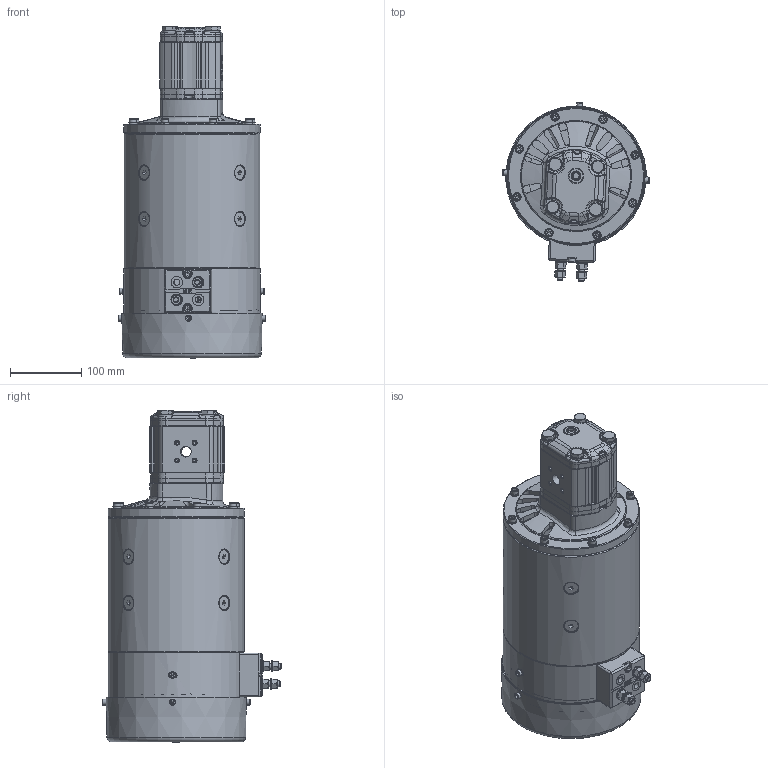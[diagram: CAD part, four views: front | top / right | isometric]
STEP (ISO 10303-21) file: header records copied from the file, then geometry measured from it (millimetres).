
FILE_DESCRIPTION(/* description */ (''),/* implementation_level */ '2;1');
FILE_NAME(/* name */ 'Z:\SITO WEB 2023\Elettropompe\Elettropompe DC\D.191 mm\MP191.GR2.stp',/* time_stamp */ '2023-09-19T09:32:56+02:00',/* author */ ('cad3'),/* organization */ (''),/* preprocessor_version */ 'ST-DEVELOPER v18.1',/* originating_system */ 'Autodesk Inventor 2022',/* authorisation */ '');
FILE_SCHEMA (('AUTOMOTIVE_DESIGN { 1 0 10303 214 3 1 1 }'));
Products named in the file (1): MP191.GR2
Bounding box: 206.98 x 250.99 x 465.5 mm (x, y, z)
Volume: 3188828.1 mm3; surface area: 763733.1 mm2
Topology: 10 solids, 34 shells, 3151 faces, 8032 edges, 5035 vertices
Faces by surface type: plane 1413, cylinder 766, cone 399, bspline 298, torus 261, sphere 14
Full cylindrical faces by diameter (mm): 4 x9, 4.134 x9, 4.917 x16, 5 x7, 6 x18, 6.5 x10, 6.647 x4, 8 x10, 8.376 x4, 8.5 x11, 8.6 x6, 9 x2, 10 x47, 10.5 x22, 11 x2, 11.63 x2, 13 x4, 14 x12, 14.63 x2, 15 x1, 15.6 x2, 16 x4, 18 x1, 18.2 x3, 18.5 x1, 19.48 x8, 20 x3, 20.5 x8, 26.5 x1, 32 x1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
Entity records: 116265 total; most frequent: CARTESIAN_POINT 38150, ORIENTED_EDGE 15894, DIRECTION 15509, EDGE_CURVE 7947, AXIS2_PLACEMENT_3D 6018, VERTEX_POINT 5035, EDGE_LOOP 3525, LINE 3473
